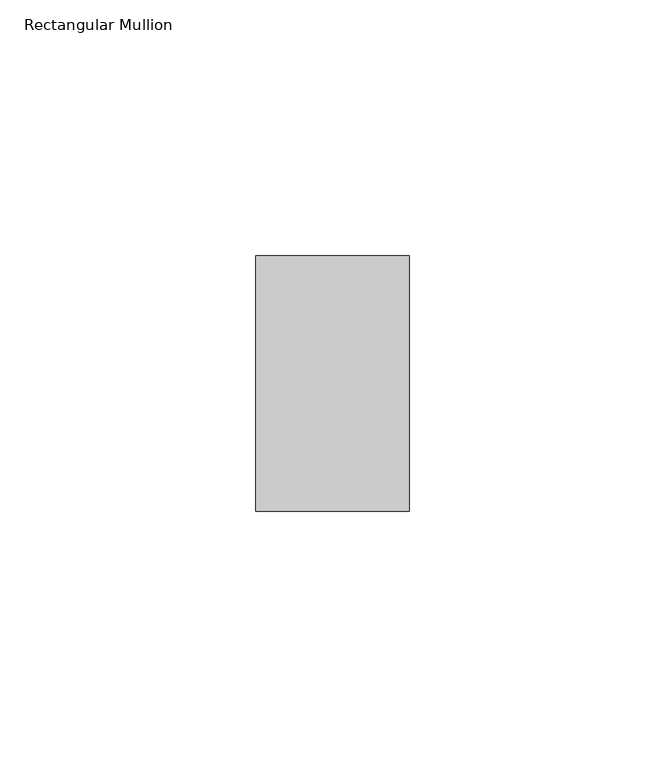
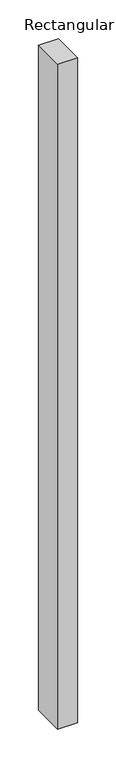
"""IFC4 building model written with IfcOpenShell, lengths in millimetres: member geometry, Rectangular Mullion : ARQ_TV_MULL_50x30mm."""

from ifc_helpers import new_model, si_unit, frame, origin, place, context, project, spatial, polyline, outline, extrude, source, transform, mapped, element, save


def rectangular_mullion_22e3ac1e(model_context):
    return source(origin(), model_context, "Body", "SweptSolid", [
        extrude(outline(polyline([(0.0, 25.0), (0.0, -25.0), (-30.0, -25.0), (-30.0, 25.0), (0.0, 25.0)])), frame((0.0, 0.0, -1052.6872549), z_axis=(0.0, 0.0, 1.0), x_axis=(1.0, 0.0, 0.0)), (0.0, 0.0, 1.0), 1052.6872549),
    ])


if __name__ == "__main__":
    model = new_model("IFC4")
    model_context = context("Model", 3, world=origin())
    ifc_project = project(units=[si_unit("LENGTHUNIT", "METRE", prefix="MILLI")], contexts=[model_context])
    site = spatial("IfcSite", under=ifc_project)
    building = spatial("IfcBuilding", under=site)
    placement = place(None, origin())
    rectangular_mullion_shape = rectangular_mullion_22e3ac1e(model_context)
    element("IfcMember", 1, ObjectType="Rectangular Mullion : ARQ_TV_MULL_50x30mm", at=placement, inside=building, context=model_context, shape_type="MappedRepresentation", body=[
        mapped(rectangular_mullion_shape, transform((0.0, 0.0, 0.0), x_axis=(1.0, 0.0, 0.0), y_axis=(0.0, 1.0, 0.0), z_axis=(0.0, 0.0, 1.0))),
    ])
    save(model, "model.ifc")
